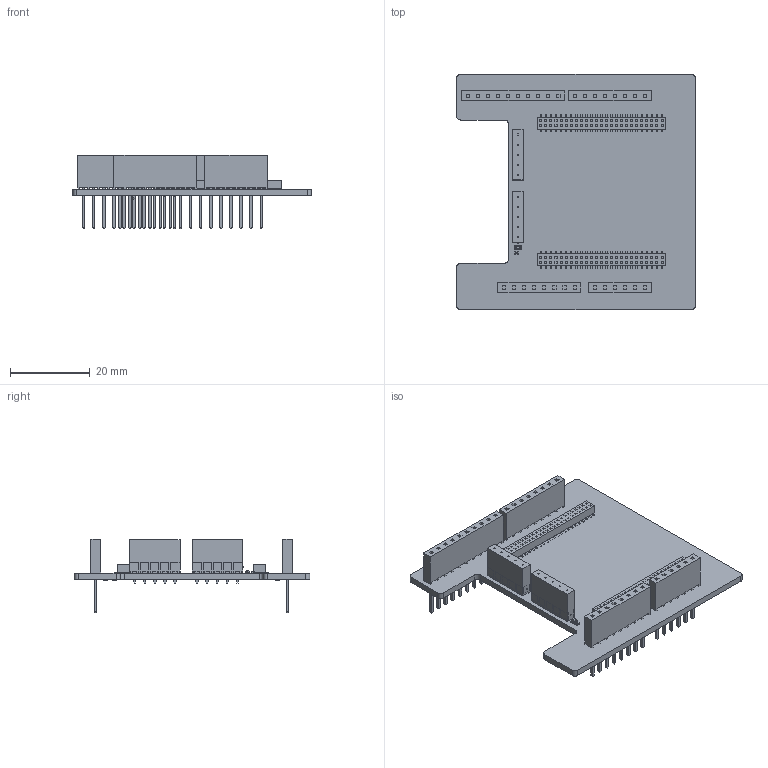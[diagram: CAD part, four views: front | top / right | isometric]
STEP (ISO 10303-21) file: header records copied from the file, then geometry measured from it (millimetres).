
FILE_DESCRIPTION(('Open CASCADE Model'),'2;1');
FILE_NAME('Open CASCADE Shape Model','2024-02-21T09:23:16',('Author'),( 'Open CASCADE'),'Open CASCADE STEP processor 7.5','Open CASCADE 7.5' ,'Unknown');
FILE_SCHEMA(('AUTOMOTIVE_DESIGN { 1 0 10303 214 1 1 1 1 }'));
Length unit declared in the file: millimetre
Products named in the file (56): PCB; Board; Open CASCADE STEP translator 7.5 1.1.1; SB14; R0402; 6630920016; Extruded; SB13; LD1; LED_0603_BLUE; User Library-LED_0603_B_Pocket002; User Library-LED_0603_B_Pad004; User Library-LED_0603_B_Fillet; User Library-LED_0603_B_Pocket001; User Library-LED_0603_B_Pad; 6630919696; 6630919536; 6630919376; 6630919136; CN8; TSW-105-07-G-S; _TSW-105-07-G-S_body; _T-1S6-07-TSW-1-07-5-S; 6630918736; CN7; CN6; SSQ-106-03-F-S; _T1SSQ-106-03-F-S; _P2SSQ-106-03-F-S; CN3; SSQ-110-03-F-S; _T1SSQ-110-03-F-S; _P2SSQ-110-03-F-S; SB8; SB5; SB12; SB1; SB9; CN2; CLP-125-02-F-D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
Assembly tree (75 placements, depth 4):
  PCB
    Board
      Open CASCADE STEP translator 7.5 1.1.1
    SB14
      R0402
      6630920016
        Extruded
    SB13
      R0402
      6630920016
        Extruded
    LD1
      LED_0603_BLUE
        User Library-LED_0603_B_Pocket002
        User Library-LED_0603_B_Pad004
        User Library-LED_0603_B_Fillet
        User Library-LED_0603_B_Pocket001
        User Library-LED_0603_B_Pad
      6630919696
        Extruded
      6630919536
        Extruded
      6630919376  x2
        Extruded
      6630919136  x2
        Extruded
    CN8
      TSW-105-07-G-S
        _TSW-105-07-G-S_body
        _T-1S6-07-TSW-1-07-5-S
      6630918736
        Extruded
    CN7
      TSW-105-07-G-S
        _TSW-105-07-G-S_body
        _T-1S6-07-TSW-1-07-5-S
      6630918736
        Extruded
    CN6
      SSQ-106-03-F-S
        _T1SSQ-106-03-F-S
        _P2SSQ-106-03-F-S
    CN3
      SSQ-110-03-F-S
        _T1SSQ-110-03-F-S
        _P2SSQ-110-03-F-S
    SB8
      R0402
      6630920016
        Extruded
    SB5
      R0402
      6630920016
        Extruded
    SB12
      R0402
      6630920016
        Extruded
    SB1
      R0402
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Bounding box: 60 x 59.3 x 18.52 mm (x, y, z)
Volume: 7584 mm3; surface area: 13243.6 mm2
Topology: 63 solids, 64 shells, 4851 faces, 12327 edges, 7418 vertices
Faces by surface type: plane 2784, cylinder 1107, bspline 464, sphere 424, torus 72
Full cylindrical faces by diameter (mm): 1 x42
Entity records: 60306 total; most frequent: CARTESIAN_POINT 11237, ORIENTED_EDGE 8184, DIRECTION 7570, EDGE_CURVE 4093, LINE 3544, VECTOR 3544, VERTEX_POINT 2634, AXIS2_PLACEMENT_3D 2013
